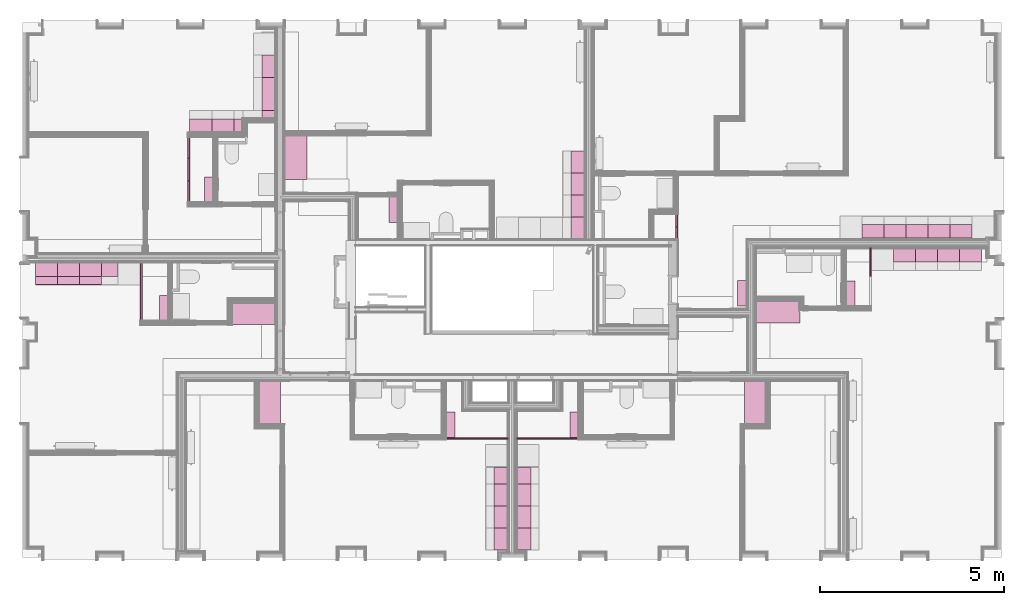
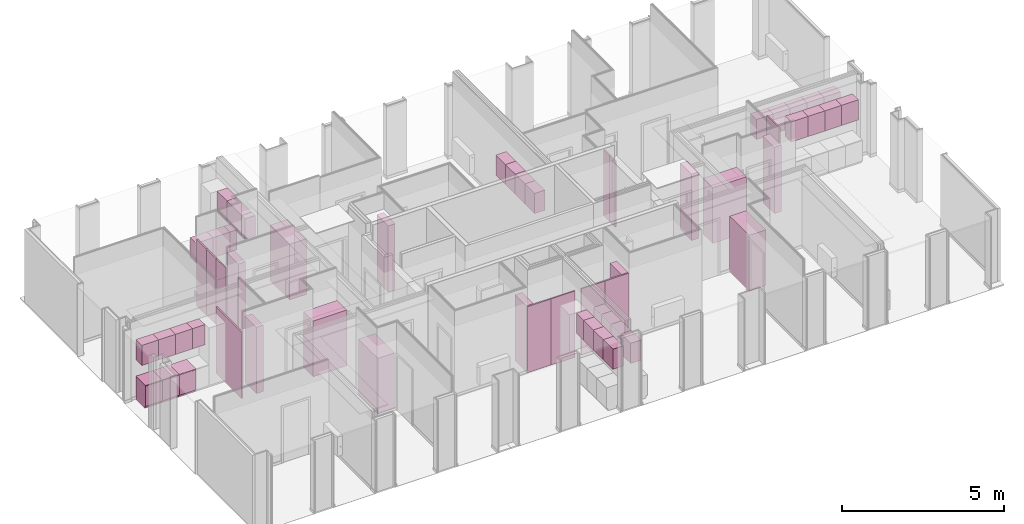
# One storey, part 63 of 65: 57 furnishings.
"""IFC2X3 building model written with IfcOpenShell, lengths in metres."""

from ifc_helpers import new_model, entity, si_unit, converted_unit, derived_unit, money_unit, direction, frame, frame_2d, origin_with_axes, place, context, subcontext, project, spatial, rectangle, extrude, faceted_brep, material, type_object, element, save


model = new_model("IFC2X3")

# Units and contexts
model_context = context("Model", 3, precision=1e-05, world=origin_with_axes(), true_north=direction((0.0, 1.0)))
body_context = subcontext(model_context, "Body", "Model", "MODEL_VIEW", scale=1.0)
ifc_project = project(units=[si_unit("LENGTHUNIT", "METRE"), si_unit("AREAUNIT", "SQUARE_METRE"), si_unit("VOLUMEUNIT", "CUBIC_METRE"), si_unit("ABSORBEDDOSEUNIT", "GRAY"), si_unit("AMOUNTOFSUBSTANCEUNIT", "MOLE"), si_unit("DOSEEQUIVALENTUNIT", "SIEVERT"), si_unit("ELECTRICCAPACITANCEUNIT", "FARAD"), si_unit("ELECTRICCHARGEUNIT", "COULOMB"), si_unit("ELECTRICCONDUCTANCEUNIT", "SIEMENS"), si_unit("ELECTRICCURRENTUNIT", "AMPERE"), si_unit("ELECTRICRESISTANCEUNIT", "OHM"), si_unit("ELECTRICVOLTAGEUNIT", "VOLT"), si_unit("ENERGYUNIT", "JOULE"), si_unit("FORCEUNIT", "NEWTON"), si_unit("FREQUENCYUNIT", "HERTZ"), si_unit("ILLUMINANCEUNIT", "LUX"), si_unit("INDUCTANCEUNIT", "HENRY"), si_unit("LUMINOUSFLUXUNIT", "LUMEN"), si_unit("LUMINOUSINTENSITYUNIT", "CANDELA"), si_unit("MAGNETICFLUXDENSITYUNIT", "TESLA"), si_unit("MAGNETICFLUXUNIT", "WEBER"), si_unit("MASSUNIT", "GRAM"), converted_unit("PLANEANGLEUNIT", "degree", entity("IfcReal", 0.0174532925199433), si_unit("PLANEANGLEUNIT", "RADIAN"), dimensions=[0, 0, 0, 0, 0, 0, 0]), si_unit("POWERUNIT", "WATT"), si_unit("PRESSUREUNIT", "PASCAL"), si_unit("RADIOACTIVITYUNIT", "BECQUEREL"), si_unit("SOLIDANGLEUNIT", "STERADIAN"), si_unit("THERMODYNAMICTEMPERATUREUNIT", "KELVIN"), si_unit("TIMEUNIT", "SECOND"), derived_unit("ACCELERATIONUNIT", [(si_unit("LENGTHUNIT", "METRE"), 1), (si_unit("TIMEUNIT", "SECOND"), -2)]), derived_unit("ANGULARVELOCITYUNIT", [(converted_unit("PLANEANGLEUNIT", "degree", entity("IfcReal", 0.0174532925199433), si_unit("PLANEANGLEUNIT", "RADIAN"), dimensions=[0, 0, 0, 0, 0, 0, 0]), 1), (si_unit("TIMEUNIT", "SECOND"), -1)]), derived_unit("CURVATUREUNIT", [(converted_unit("PLANEANGLEUNIT", "degree", entity("IfcReal", 0.0174532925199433), si_unit("PLANEANGLEUNIT", "RADIAN"), dimensions=[0, 0, 0, 0, 0, 0, 0]), 1), (si_unit("LENGTHUNIT", "METRE"), -1)]), derived_unit("DYNAMICVISCOSITYUNIT", [(si_unit("PRESSUREUNIT", "PASCAL"), 1), (si_unit("TIMEUNIT", "SECOND"), 1)]), derived_unit("HEATFLUXDENSITYUNIT", [(si_unit("POWERUNIT", "WATT"), 1), (si_unit("LENGTHUNIT", "METRE"), -2)]), derived_unit("HEATINGVALUEUNIT", [(si_unit("ENERGYUNIT", "JOULE"), 1), (si_unit("MASSUNIT", "GRAM"), -1)]), derived_unit("INTEGERCOUNTRATEUNIT", [(si_unit("TIMEUNIT", "SECOND"), -1)]), derived_unit("IONCONCENTRATIONUNIT", [(si_unit("MASSUNIT", "GRAM"), 1), (si_unit("VOLUMEUNIT", "CUBIC_METRE"), -1)]), derived_unit("ISOTHERMALMOISTURECAPACITYUNIT", [(si_unit("VOLUMEUNIT", "CUBIC_METRE"), 1), (si_unit("MASSUNIT", "GRAM"), -1)]), derived_unit("KINEMATICVISCOSITYUNIT", [(si_unit("AREAUNIT", "SQUARE_METRE"), 1), (si_unit("TIMEUNIT", "SECOND"), -1)]), derived_unit("LINEARFORCEUNIT", [(si_unit("FORCEUNIT", "NEWTON"), 1), (si_unit("LENGTHUNIT", "METRE"), -1)]), derived_unit("LINEARMOMENTUNIT", [(si_unit("FORCEUNIT", "NEWTON"), 1), (si_unit("LENGTHUNIT", "METRE"), -1)]), derived_unit("LINEARSTIFFNESSUNIT", [(si_unit("FORCEUNIT", "NEWTON"), 1), (si_unit("LENGTHUNIT", "METRE"), -1)]), derived_unit("LINEARVELOCITYUNIT", [(si_unit("LENGTHUNIT", "METRE"), 1), (si_unit("TIMEUNIT", "SECOND"), -1)]), derived_unit("LUMINOUSINTENSITYDISTRIBUTIONUNIT", [(si_unit("LUMINOUSINTENSITYUNIT", "CANDELA"), 1), (si_unit("LUMINOUSFLUXUNIT", "LUMEN"), -1)]), derived_unit("MASSDENSITYUNIT", [(si_unit("MASSUNIT", "GRAM"), 1), (si_unit("VOLUMEUNIT", "CUBIC_METRE"), -1)]), derived_unit("MASSFLOWRATEUNIT", [(si_unit("MASSUNIT", "GRAM"), 1), (si_unit("TIMEUNIT", "SECOND"), -1)]), derived_unit("MASSPERLENGTHUNIT", [(si_unit("MASSUNIT", "GRAM"), 1), (si_unit("LENGTHUNIT", "METRE"), -1)]), derived_unit("MODULUSOFELASTICITYUNIT", [(si_unit("FORCEUNIT", "NEWTON"), 1), (si_unit("AREAUNIT", "SQUARE_METRE"), -1)]), derived_unit("MODULUSOFLINEARSUBGRADEREACTIONUNIT", [(si_unit("FORCEUNIT", "NEWTON"), 1), (si_unit("LENGTHUNIT", "METRE"), -2)]), derived_unit("MODULUSOFROTATIONALSUBGRADEREACTIONUNIT", [(si_unit("FORCEUNIT", "NEWTON"), 1), (si_unit("LENGTHUNIT", "METRE"), 1)]), derived_unit("MODULUSOFSUBGRADEREACTIONUNIT", [(si_unit("FORCEUNIT", "NEWTON"), 1), (si_unit("VOLUMEUNIT", "CUBIC_METRE"), -1)]), derived_unit("MOISTUREDIFFUSIVITYUNIT", [(si_unit("VOLUMEUNIT", "CUBIC_METRE"), 1), (si_unit("TIMEUNIT", "SECOND"), -1)]), derived_unit("MOLECULARWEIGHTUNIT", [(si_unit("MASSUNIT", "GRAM"), 1), (si_unit("AMOUNTOFSUBSTANCEUNIT", "MOLE"), -1)]), derived_unit("PLANARFORCEUNIT", [(si_unit("FORCEUNIT", "NEWTON"), 1), (si_unit("LENGTHUNIT", "METRE"), -2)]), derived_unit("ROTATIONALFREQUENCYUNIT", [(si_unit("TIMEUNIT", "SECOND"), -1)]), derived_unit("ROTATIONALMASSUNIT", [(si_unit("MASSUNIT", "GRAM"), 1), (si_unit("LENGTHUNIT", "METRE"), 2)]), derived_unit("ROTATIONALSTIFFNESSUNIT", [(si_unit("FORCEUNIT", "NEWTON"), 1), (si_unit("LENGTHUNIT", "METRE"), 1), (converted_unit("PLANEANGLEUNIT", "degree", entity("IfcReal", 0.0174532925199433), si_unit("PLANEANGLEUNIT", "RADIAN"), dimensions=[0, 0, 0, 0, 0, 0, 0]), -1)]), derived_unit("SECTIONAREAINTEGRALUNIT", [(si_unit("LENGTHUNIT", "METRE"), 5)]), derived_unit("SECTIONMODULUSUNIT", [(si_unit("LENGTHUNIT", "METRE"), 3)]), derived_unit("SHEARMODULUSUNIT", [(si_unit("FORCEUNIT", "NEWTON"), 1), (si_unit("AREAUNIT", "SQUARE_METRE"), -1)]), derived_unit("SOUNDPOWERUNIT", [(si_unit("ENERGYUNIT", "JOULE"), 1), (si_unit("TIMEUNIT", "SECOND"), -1)]), derived_unit("SPECIFICHEATCAPACITYUNIT", [(si_unit("FORCEUNIT", "NEWTON"), 1), (si_unit("MASSUNIT", "GRAM"), -1), (si_unit("THERMODYNAMICTEMPERATUREUNIT", "KELVIN"), -1)]), derived_unit("TEMPERATUREGRADIENTUNIT", [(si_unit("THERMODYNAMICTEMPERATUREUNIT", "KELVIN"), 1), (si_unit("LENGTHUNIT", "METRE"), -1)]), derived_unit("THERMALADMITTANCEUNIT", [(si_unit("POWERUNIT", "WATT"), 1), (si_unit("AREAUNIT", "SQUARE_METRE"), -1), (si_unit("THERMODYNAMICTEMPERATUREUNIT", "KELVIN"), -1)]), derived_unit("THERMALCONDUCTANCEUNIT", [(si_unit("POWERUNIT", "WATT"), 1), (si_unit("LENGTHUNIT", "METRE"), -1), (si_unit("THERMODYNAMICTEMPERATUREUNIT", "KELVIN"), -1)]), derived_unit("THERMALEXPANSIONCOEFFICIENTUNIT", [(si_unit("THERMODYNAMICTEMPERATUREUNIT", "KELVIN"), -1)]), derived_unit("THERMALRESISTANCEUNIT", [(si_unit("AREAUNIT", "SQUARE_METRE"), 1), (si_unit("POWERUNIT", "WATT"), -1)]), derived_unit("THERMALTRANSMITTANCEUNIT", [(si_unit("POWERUNIT", "WATT"), 1), (si_unit("AREAUNIT", "SQUARE_METRE"), -1), (si_unit("THERMODYNAMICTEMPERATUREUNIT", "KELVIN"), -1)]), derived_unit("TORQUEUNIT", [(si_unit("FORCEUNIT", "NEWTON"), 1), (si_unit("LENGTHUNIT", "METRE"), 1)]), derived_unit("VAPORPERMEABILITYUNIT", [(si_unit("MASSUNIT", "GRAM"), 1), (si_unit("TIMEUNIT", "SECOND"), -1)]), derived_unit("VOLUMETRICFLOWRATEUNIT", [(si_unit("VOLUMEUNIT", "CUBIC_METRE"), 1), (si_unit("TIMEUNIT", "SECOND"), -1)]), derived_unit("WARPINGCONSTANTUNIT", [(si_unit("LENGTHUNIT", "METRE"), 6)]), derived_unit("WARPINGMOMENTUNIT", [(si_unit("FORCEUNIT", "NEWTON"), 1), (si_unit("LENGTHUNIT", "METRE"), 2)]), money_unit("GBP")], contexts=[model_context])

# Site, building, storey, space
site_placement = place(None, origin_with_axes())
site = spatial("IfcSite", under=ifc_project, at=site_placement, Name="Site", CompositionType="ELEMENT")
building_placement = place(site_placement, origin_with_axes())
building = spatial("IfcBuilding", under=site, at=building_placement, Name="Building01", CompositionType="ELEMENT")
storey_placement = place(building_placement, frame((0.0, 0.0, 8.64), z_axis=(0.0, 0.0, 1.0), x_axis=(1.0, 0.0, 0.0)))
storey = spatial("IfcBuildingStorey", under=building, at=storey_placement, Name="2F", CompositionType="ELEMENT", Elevation=8.64)
space_1_placement = place(storey_placement, frame((0.318, 8.21067, 0.017975), z_axis=(0.0, 0.0, 1.0), x_axis=(0.0, -1.0, 0.0)))
space_1 = spatial("IfcSpace", under=storey, at=space_1_placement, Name="13", CompositionType="ELEMENT", InteriorOrExteriorSpace="NOTDEFINED")

# Furnishing
furniture_type_1 = type_object("IfcFurnitureType", Name="SHE_A-Cupboard_Electro")
furnishing_1_placement = place(storey_placement, frame((4.14573, 7.306475, 0.0), z_axis=(0.0, 0.0, 1.0), x_axis=(0.0, -1.0, 0.0)))
element("IfcFurnishingElement", 1, at=furnishing_1_placement, inside=space_1, type_object=furniture_type_1, Name="13", ObjectType="SHE_A-Cupboard_Electro", context=body_context, shape_type="SweptSolid", body=[
    extrude(rectangle(XDim=0.25, YDim=0.7, at=frame_2d((0.35, -0.125), x_axis=(0.0, -1.0))), origin_with_axes(), (0.0, 0.0, 1.0), 2.5),
])

# Space
space_2_placement = place(storey_placement, frame((7.289669, 14.8, 0.017975), z_axis=(0.0, 0.0, 1.0), x_axis=(0.0, -1.0, 0.0)))
space_2 = spatial("IfcSpace", under=storey, at=space_2_placement, Name="15", CompositionType="ELEMENT", InteriorOrExteriorSpace="NOTDEFINED")

# Furnishing
furnishing_2_placement = place(storey_placement, frame((10.143871, 9.292704, 0.0), z_axis=(0.0, 0.0, 1.0), x_axis=(0.0, 1.0, 0.0)))
element("IfcFurnishingElement", 2, at=furnishing_2_placement, inside=space_2, type_object=furniture_type_1, Name="15", ObjectType="SHE_A-Cupboard_Electro", context=body_context, shape_type="SweptSolid", body=[
    extrude(rectangle(XDim=0.25, YDim=0.7, at=frame_2d((0.35, -0.125), x_axis=(0.0, -1.0))), origin_with_axes(), (0.0, 0.0, 1.0), 2.5),
])

# Space
space_3_placement = place(storey_placement, frame((15.83, 8.82, 0.017975), z_axis=(0.0, 0.0, 1.0), x_axis=(0.0, -1.0, 0.0)))
space_3 = spatial("IfcSpace", under=storey, at=space_3_placement, Name="09", CompositionType="ELEMENT", InteriorOrExteriorSpace="NOTDEFINED")

# Furnishing
furnishing_3_placement = place(storey_placement, frame((19.632661, 7.716, 0.0), z_axis=(0.0, 0.0, 1.0), x_axis=(0.0, -1.0, 0.0)))
element("IfcFurnishingElement", 3, at=furnishing_3_placement, inside=space_3, type_object=furniture_type_1, Name="09", ObjectType="SHE_A-Cupboard_Electro", context=body_context, shape_type="SweptSolid", body=[
    extrude(rectangle(XDim=0.25, YDim=0.7, at=frame_2d((0.35, 0.125), x_axis=(0.0, 1.0))), origin_with_axes(), (0.0, 0.0, 1.0), 2.5),
])

# Space
space_4_placement = place(storey_placement, frame((20.122661, 5.205, 0.017975), z_axis=(0.0, 0.0, 1.0), x_axis=(1.0, 0.0, 0.0)))
space_4 = spatial("IfcSpace", under=storey, at=space_4_placement, Name="10", CompositionType="ELEMENT", InteriorOrExteriorSpace="NOTDEFINED")

# Furnishing
furnishing_4_placement = place(storey_placement, frame((22.571661, 7.0, 0.0), z_axis=(0.0, 0.0, 1.0), x_axis=(0.0, 1.0, 0.0)))
element("IfcFurnishingElement", 4, at=furnishing_4_placement, inside=space_4, type_object=furniture_type_1, Name="10", ObjectType="SHE_A-Cupboard_Electro", context=body_context, shape_type="SweptSolid", body=[
    extrude(rectangle(XDim=0.25, YDim=0.7, at=frame_2d((0.35, -0.125), x_axis=(0.0, -1.0))), origin_with_axes(), (0.0, 0.0, 1.0), 2.5),
])

# Space
space_5_placement = place(storey_placement, frame((4.969669, 9.83067, 0.017975), z_axis=(0.0, 0.0, 1.0), x_axis=(1.0, 0.0, 0.0)))
space_5 = spatial("IfcSpace", under=storey, at=space_5_placement, Name="storage", CompositionType="ELEMENT", InteriorOrExteriorSpace="NOTDEFINED")

# Furnishing
furnishing_5_placement = place(storey_placement, frame((5.119669, 9.83067, 0.0), z_axis=(0.0, 0.0, 1.0), x_axis=(0.0, 1.0, 0.0)))
element("IfcFurnishingElement", 5, at=furnishing_5_placement, inside=space_5, type_object=furniture_type_1, Name="14", ObjectType="SHE_A-Cupboard_Electro", context=body_context, shape_type="SweptSolid", body=[
    extrude(rectangle(XDim=0.25, YDim=0.7, at=frame_2d((0.35, -0.125), x_axis=(0.0, -1.0))), origin_with_axes(), (0.0, 0.0, 1.0), 2.5),
])

# Space
space_6_placement = place(storey_placement, frame((13.6125, 3.385, 0.017975), z_axis=(0.0, 0.0, 1.0), x_axis=(1.0, 0.0, 0.0)))
space_6 = spatial("IfcSpace", under=storey, at=space_6_placement, Name="storage", CompositionType="ELEMENT", InteriorOrExteriorSpace="NOTDEFINED")

# Furnishing
furnishing_6_placement = place(storey_placement, frame((15.0625, 3.435, 0.0), z_axis=(0.0, 0.0, 1.0), x_axis=(0.0, 1.0, 0.0)))
element("IfcFurnishingElement", 6, at=furnishing_6_placement, inside=space_6, type_object=furniture_type_1, Name="11", ObjectType="SHE_A-Cupboard_Electro", context=body_context, shape_type="SweptSolid", body=[
    extrude(rectangle(XDim=0.25, YDim=0.7, at=frame_2d((0.35, -0.125), x_axis=(0.0, -1.0))), origin_with_axes(), (0.0, 0.0, 1.0), 2.5),
])

# Space
space_7_placement = place(storey_placement, frame((11.687536, 3.385, 0.017975), z_axis=(0.0, 0.0, 1.0), x_axis=(1.0, 0.0, 0.0)))
space_7 = spatial("IfcSpace", under=storey, at=space_7_placement, Name="storage", CompositionType="ELEMENT", InteriorOrExteriorSpace="NOTDEFINED")

# Furnishings
furnishing_7_placement = place(storey_placement, frame((11.687536, 3.435, 0.0), z_axis=(0.0, 0.0, 1.0), x_axis=(0.0, 1.0, 0.0)))
element("IfcFurnishingElement", 7, at=furnishing_7_placement, inside=space_7, type_object=furniture_type_1, Name="12", ObjectType="SHE_A-Cupboard_Electro", context=body_context, shape_type="SweptSolid", body=[
    extrude(rectangle(XDim=0.25, YDim=0.7, at=frame_2d((0.35, -0.125), x_axis=(0.0, -1.0))), origin_with_axes(), (0.0, 0.0, 1.0), 2.5),
])
ifc_material = material(Name="A_BSUK_StorageScreening_Ffe")
furniture_type_2 = type_object("IfcFurnitureType", Name="SHE_A-Kitchenunit-Base")
placement = place(storey_placement, frame((0.0, 0.0, -8.64), z_axis=(0.0, 0.0, 1.0), x_axis=(1.0, 0.0, 0.0)))
element("IfcFurnishingElement", 8, at=placement, inside=space_1, type_object=furniture_type_2, material=ifc_material, Name="13", ObjectType="SHE_A-Kitchenunit-Base", context=body_context, shape_type="Brep", body=[
    faceted_brep([(1.72073, 8.18817, 9.529), (2.32073, 8.18817, 9.529), (2.32073, 8.18817, 8.644), (1.72073, 8.18817, 8.644), (2.32073, 7.595241, 9.529), (2.32073, 7.58817, 9.521929), (2.32073, 7.58817, 9.511071), (2.32073, 7.595241, 9.504), (2.32073, 7.58817, 9.504), (2.32073, 7.58817, 8.744), (2.32073, 7.63817, 8.744), (2.32073, 7.63817, 8.644), (1.72073, 7.63817, 8.744), (1.72073, 7.63817, 8.644), (1.72073, 7.58817, 8.744), (1.72073, 7.58817, 9.504), (1.72073, 7.595241, 9.504), (1.72073, 7.58817, 9.511071), (1.72073, 7.58817, 9.521929), (1.72073, 7.595241, 9.529)], [[[0, 1, 2, 3]], [[1, 4, 5, 6, 7, 8, 9, 10, 11, 2]], [[12, 13, 11, 10]], [[12, 14, 15, 16, 17, 18, 19, 0, 3, 13]], [[2, 11, 13, 3]], [[7, 16, 15, 8]], [[9, 8, 15, 14]], [[10, 9, 14, 12]], [[5, 18, 17, 6]], [[19, 4, 1, 0]], [[6, 17, 16, 7]], [[4, 19, 18, 5]]]),
])
element("IfcFurnishingElement", 9, at=placement, inside=space_1, type_object=furniture_type_2, material=ifc_material, Name="13", ObjectType="SHE_A-Kitchenunit-Base", context=body_context, shape_type="Brep", body=[
    faceted_brep([(1.12073, 8.18817, 9.529), (1.72073, 8.18817, 9.529), (1.72073, 8.18817, 8.644), (1.12073, 8.18817, 8.644), (1.72073, 7.595241, 9.529), (1.72073, 7.58817, 9.521929), (1.72073, 7.58817, 9.511071), (1.72073, 7.595241, 9.504), (1.72073, 7.58817, 9.504), (1.72073, 7.58817, 8.744), (1.72073, 7.63817, 8.744), (1.72073, 7.63817, 8.644), (1.12073, 7.63817, 8.744), (1.12073, 7.63817, 8.644), (1.12073, 7.58817, 8.744), (1.12073, 7.58817, 9.504), (1.12073, 7.595241, 9.504), (1.12073, 7.58817, 9.511071), (1.12073, 7.58817, 9.521929), (1.12073, 7.595241, 9.529)], [[[0, 1, 2, 3]], [[1, 4, 5, 6, 7, 8, 9, 10, 11, 2]], [[12, 13, 11, 10]], [[12, 14, 15, 16, 17, 18, 19, 0, 3, 13]], [[2, 11, 13, 3]], [[7, 16, 15, 8]], [[9, 8, 15, 14]], [[10, 9, 14, 12]], [[5, 18, 17, 6]], [[19, 4, 1, 0]], [[6, 17, 16, 7]], [[4, 19, 18, 5]]]),
])
element("IfcFurnishingElement", 10, at=placement, inside=space_1, type_object=furniture_type_2, material=ifc_material, Name="13", ObjectType="SHE_A-Kitchenunit-Base", context=body_context, shape_type="Brep", body=[
    faceted_brep([(0.52073, 8.18817, 9.529), (1.12073, 8.18817, 9.529), (1.12073, 8.18817, 8.644), (0.52073, 8.18817, 8.644), (1.12073, 7.595241, 9.529), (1.12073, 7.58817, 9.521929), (1.12073, 7.58817, 9.511071), (1.12073, 7.595241, 9.504), (1.12073, 7.58817, 9.504), (1.12073, 7.58817, 8.744), (1.12073, 7.63817, 8.744), (1.12073, 7.63817, 8.644), (0.52073, 7.63817, 8.744), (0.52073, 7.63817, 8.644), (0.52073, 7.58817, 8.744), (0.52073, 7.58817, 9.504), (0.52073, 7.595241, 9.504), (0.52073, 7.58817, 9.511071), (0.52073, 7.58817, 9.521929), (0.52073, 7.595241, 9.529)], [[[0, 1, 2, 3]], [[1, 4, 5, 6, 7, 8, 9, 10, 11, 2]], [[12, 13, 11, 10]], [[12, 14, 15, 16, 17, 18, 19, 0, 3, 13]], [[2, 11, 13, 3]], [[7, 16, 15, 8]], [[9, 8, 15, 14]], [[10, 9, 14, 12]], [[5, 18, 17, 6]], [[19, 4, 1, 0]], [[6, 17, 16, 7]], [[4, 19, 18, 5]]]),
])
furniture_type_3 = type_object("IfcFurnitureType", Name="SHE_A-Kitchenunit-Wall")
for number, where, z_axis, x_axis, name in (
    (11, (1.72073, 8.18817, 1.504), (0.0, 0.0, 1.0), (1.0, 0.0, 0.0), "13"),
    (12, (1.12073, 8.18817, 1.504), (0.0, 0.0, 1.0), (1.0, 0.0, 0.0), "13"),
    (13, (0.52073, 8.18817, 1.504), (0.0, 0.0, 1.0), (1.0, 0.0, 0.0), "13"),
):
    element("IfcFurnishingElement", number, at=place(storey_placement, frame(where, z_axis=z_axis, x_axis=x_axis)), inside=space_1, type_object=furniture_type_3, Name=name, ObjectType="SHE_A-Kitchenunit-Wall", context=body_context, shape_type="SweptSolid", body=[
        extrude(rectangle(XDim=0.37, YDim=0.6, at=frame_2d((0.3, -0.185), x_axis=(0.0, -1.0))), origin_with_axes(), (0.0, 0.0, 1.0), 0.76),
    ])
for number, where, z_axis, x_axis, name in (
    (14, (15.468132, 9.435, 1.504), (0.0, 0.0, 1.0), (0.0, -1.0, 0.0), "15"),
    (15, (15.468132, 10.035, 1.504), (0.0, 0.0, 1.0), (0.0, -1.0, 0.0), "15"),
    (16, (15.468132, 10.635, 1.504), (0.0, 0.0, 1.0), (0.0, -1.0, 0.0), "15"),
    (17, (15.468132, 11.235, 1.504), (0.0, 0.0, 1.0), (0.0, -1.0, 0.0), "15"),
):
    element("IfcFurnishingElement", number, at=place(storey_placement, frame(where, z_axis=z_axis, x_axis=x_axis)), inside=space_2, type_object=furniture_type_3, Name=name, ObjectType="SHE_A-Kitchenunit-Wall", context=body_context, shape_type="SweptSolid", body=[
        extrude(rectangle(XDim=0.37, YDim=0.6, at=frame_2d((0.3, -0.185), x_axis=(0.0, -1.0))), origin_with_axes(), (0.0, 0.0, 1.0), 0.76),
    ])

# Space
space_8_placement = place(storey_placement, frame((22.624794, 8.82, 0.017975), z_axis=(0.0, 0.0, 1.0), x_axis=(1.0, 0.0, 0.0)))
space_8 = spatial("IfcSpace", under=storey, at=space_8_placement, Name="k/d/l", CompositionType="ELEMENT", InteriorOrExteriorSpace="NOTDEFINED")

# Furnishings
for number, where, z_axis, x_axis, name in (
    (18, (23.609999, 8.863, 1.504), (0.0, 0.0, 1.0), (-1.0, 0.0, 0.0), "09"),
    (19, (24.209999, 8.863, 1.504), (0.0, 0.0, 1.0), (-1.0, 0.0, 0.0), "09"),
    (20, (24.809999, 8.863, 1.504), (0.0, 0.0, 1.0), (-1.0, 0.0, 0.0), "09"),
):
    element("IfcFurnishingElement", number, at=place(storey_placement, frame(where, z_axis=z_axis, x_axis=x_axis)), inside=space_8, type_object=furniture_type_3, Name=name, ObjectType="SHE_A-Kitchenunit-Wall", context=body_context, shape_type="SweptSolid", body=[
        extrude(rectangle(XDim=0.37, YDim=0.6, at=frame_2d((0.3, -0.185), x_axis=(0.0, -1.0))), origin_with_axes(), (0.0, 0.0, 1.0), 0.76),
    ])
for number, where, z_axis, x_axis, name in (
    (21, (25.409999, 8.863, 1.504), (0.0, 0.0, 1.0), (-1.0, 0.0, 0.0), "09"),
    (22, (26.009999, 8.863, 1.504), (0.0, 0.0, 1.0), (-1.0, 0.0, 0.0), "09"),
):
    element("IfcFurnishingElement", number, at=place(storey_placement, frame(where, z_axis=z_axis, x_axis=x_axis)), inside=space_3, type_object=furniture_type_3, Name=name, ObjectType="SHE_A-Kitchenunit-Wall", context=body_context, shape_type="SweptSolid", body=[
        extrude(rectangle(XDim=0.37, YDim=0.6, at=frame_2d((0.3, -0.185), x_axis=(0.0, -1.0))), origin_with_axes(), (0.0, 0.0, 1.0), 0.76),
    ])

# Space
space_9_placement = place(storey_placement, frame((20.122661, 7.155, 0.017975), z_axis=(0.0, 0.0, 1.0), x_axis=(0.0, -1.0, 0.0)))
space_9 = spatial("IfcSpace", under=storey, at=space_9_placement, Name="studio", CompositionType="ELEMENT", InteriorOrExteriorSpace="NOTDEFINED")

# Furnishings
for number, where, z_axis, x_axis, name in (
    (23, (25.671529, 8.58, 1.504), (0.0, 0.0, 1.0), (-1.0, 0.0, 0.0), "10"),
    (24, (25.071529, 8.58, 1.504), (0.0, 0.0, 1.0), (-1.0, 0.0, 0.0), "10"),
    (25, (24.471529, 8.58, 1.504), (0.0, 0.0, 1.0), (-1.0, 0.0, 0.0), "10"),
    (26, (26.271529, 8.58, 1.504), (0.0, 0.0, 1.0), (-1.0, 0.0, 0.0), "10"),
):
    element("IfcFurnishingElement", number, at=place(storey_placement, frame(where, z_axis=z_axis, x_axis=x_axis)), inside=space_9, type_object=furniture_type_3, Name=name, ObjectType="SHE_A-Kitchenunit-Wall", context=body_context, shape_type="SweptSolid", body=[
        extrude(rectangle(XDim=0.37, YDim=0.6, at=frame_2d((0.3, 0.185), x_axis=(0.0, 1.0))), origin_with_axes(), (0.0, 0.0, 1.0), 0.76),
    ])

# Space
space_10_placement = place(storey_placement, frame((14.85, 4.98, 0.017975), z_axis=(0.0, 0.0, 1.0), x_axis=(0.0, -1.0, 0.0)))
space_10 = spatial("IfcSpace", under=storey, at=space_10_placement, Name="11", CompositionType="ELEMENT", InteriorOrExteriorSpace="NOTDEFINED")

# Furnishings
for number, where, z_axis, x_axis, name in (
    (27, (13.631, 2.175001, 1.504), (0.0, 0.0, 1.0), (0.0, -1.0, 0.0), "11"),
    (28, (13.631, 1.575001, 1.504), (0.0, 0.0, 1.0), (0.0, -1.0, 0.0), "11"),
    (29, (13.631, 0.975001, 1.504), (0.0, 0.0, 1.0), (0.0, -1.0, 0.0), "11"),
):
    element("IfcFurnishingElement", number, at=place(storey_placement, frame(where, z_axis=z_axis, x_axis=x_axis)), inside=space_10, type_object=furniture_type_3, Name=name, ObjectType="SHE_A-Kitchenunit-Wall", context=body_context, shape_type="SweptSolid", body=[
        extrude(rectangle(XDim=0.37, YDim=0.6, at=frame_2d((0.3, 0.185), x_axis=(0.0, 1.0))), origin_with_axes(), (0.0, 0.0, 1.0), 0.76),
    ])

# Space
space_11_placement = place(storey_placement, frame((12.15, 4.98, 0.017975), z_axis=(0.0, 0.0, 1.0), x_axis=(-1.0, 0.0, 0.0)))
space_11 = spatial("IfcSpace", under=storey, at=space_11_placement, Name="12", CompositionType="ELEMENT", InteriorOrExteriorSpace="NOTDEFINED")

# Furnishings
for number, where, z_axis, x_axis, name in (
    (30, (13.369, 1.575001, 1.504), (0.0, 0.0, 1.0), (0.0, -1.0, 0.0), "12"),
    (31, (13.369, 0.975001, 1.504), (0.0, 0.0, 1.0), (0.0, -1.0, 0.0), "12"),
    (32, (13.369, 2.175001, 1.504), (0.0, 0.0, 1.0), (0.0, -1.0, 0.0), "12"),
):
    element("IfcFurnishingElement", number, at=place(storey_placement, frame(where, z_axis=z_axis, x_axis=x_axis)), inside=space_11, type_object=furniture_type_3, Name=name, ObjectType="SHE_A-Kitchenunit-Wall", context=body_context, shape_type="SweptSolid", body=[
        extrude(rectangle(XDim=0.37, YDim=0.6, at=frame_2d((0.3, -0.185), x_axis=(0.0, -1.0))), origin_with_axes(), (0.0, 0.0, 1.0), 0.76),
    ])

# Space
space_12_placement = place(storey_placement, frame((0.318, 11.72567, 0.017975), z_axis=(0.0, 0.0, 1.0), x_axis=(1.0, 0.0, 0.0)))
space_12 = spatial("IfcSpace", under=storey, at=space_12_placement, Name="k/d/l", CompositionType="ELEMENT", InteriorOrExteriorSpace="NOTDEFINED")

# Furnishings
for number, where, z_axis, x_axis, name in (
    (33, (4.719669, 11.74067, 1.504), (0.0, 0.0, 1.0), (1.0, 0.0, 0.0), "14"),
    (34, (7.049669, 13.24067, 1.504), (0.0, 0.0, 1.0), (0.0, 1.0, 0.0), "14"),
):
    element("IfcFurnishingElement", number, at=place(storey_placement, frame(where, z_axis=z_axis, x_axis=x_axis)), inside=space_12, type_object=furniture_type_3, Name=name, ObjectType="SHE_A-Kitchenunit-Wall", context=body_context, shape_type="SweptSolid", body=[
        extrude(rectangle(XDim=0.37, YDim=0.6, at=frame_2d((0.3, 0.185), x_axis=(0.0, 1.0))), origin_with_axes(), (0.0, 0.0, 1.0), 0.76),
    ])
furnishing_11_placement = place(storey_placement, frame((7.049669, 12.34067, 1.504), z_axis=(0.0, 0.0, 1.0), x_axis=(0.0, 1.0, 0.0)))
element("IfcFurnishingElement", 35, at=furnishing_11_placement, inside=space_12, type_object=furniture_type_3, Name="14", ObjectType="SHE_A-Kitchenunit-Wall", context=body_context, shape_type="SweptSolid", body=[
    extrude(rectangle(XDim=0.37, YDim=0.9, at=frame_2d((0.45, 0.185), x_axis=(0.0, 1.0))), origin_with_axes(), (0.0, 0.0, 1.0), 0.76),
])
furnishing_12_placement = place(storey_placement, frame((5.319669, 11.74067, 1.504), z_axis=(0.0, 0.0, 1.0), x_axis=(1.0, 0.0, 0.0)))
element("IfcFurnishingElement", 36, at=furnishing_12_placement, inside=space_12, type_object=furniture_type_3, Name="14", ObjectType="SHE_A-Kitchenunit-Wall", context=body_context, shape_type="SweptSolid", body=[
    extrude(rectangle(XDim=0.37, YDim=0.6, at=frame_2d((0.3, 0.185), x_axis=(0.0, 1.0))), origin_with_axes(), (0.0, 0.0, 1.0), 0.76),
])
furnishing_13_placement = place(storey_placement, frame((5.919669, 11.74067, 1.504), z_axis=(0.0, 0.0, 1.0), x_axis=(1.0, 0.0, 0.0)))
element("IfcFurnishingElement", 37, at=furnishing_13_placement, inside=space_12, type_object=furniture_type_3, Name="14", ObjectType="SHE_A-Kitchenunit-Wall", context=body_context, shape_type="SweptSolid", body=[
    extrude(rectangle(XDim=0.37, YDim=0.25, at=frame_2d((0.125, 0.185), x_axis=(0.0, 1.0))), origin_with_axes(), (0.0, 0.0, 1.0), 0.76),
])
furnishing_14_placement = place(storey_placement, frame((7.049669, 12.12567, 1.504), z_axis=(0.0, 0.0, 1.0), x_axis=(0.0, 1.0, 0.0)))
element("IfcFurnishingElement", 38, at=furnishing_14_placement, inside=space_12, type_object=furniture_type_3, Name="14", ObjectType="SHE_A-Kitchenunit-Wall", context=body_context, shape_type="SweptSolid", body=[
    extrude(rectangle(XDim=0.37, YDim=0.215, at=frame_2d((0.1075, 0.185), x_axis=(0.0, 1.0))), origin_with_axes(), (0.0, 0.0, 1.0), 0.76),
])
furniture_type_4 = type_object("IfcFurnitureType", Name="SHE_A-Wardrobe_hall 40x90")
furnishing_15_placement = place(storey_placement, frame((5.864669, 7.111475, 0.0), z_axis=(0.0, 0.0, 1.0), x_axis=(1.0, 0.0, 0.0)))
element("IfcFurnishingElement", 39, at=furnishing_15_placement, inside=space_1, type_object=furniture_type_4, Name="13", ObjectType="SHE_A-Wardrobe_hall 40x90", context=body_context, shape_type="SweptSolid", body=[
    extrude(rectangle(XDim=0.6, YDim=1.2, at=frame_2d((0.6, -0.3), x_axis=(0.0, -1.0))), origin_with_axes(), (0.0, 0.0, 1.0), 2.1),
])
furnishing_16_placement = place(storey_placement, frame((20.122661, 7.155, 0.0), z_axis=(0.0, 0.0, 1.0), x_axis=(1.0, 0.0, 0.0)))
element("IfcFurnishingElement", 40, at=furnishing_16_placement, inside=space_4, type_object=furniture_type_4, Name="10", ObjectType="SHE_A-Wardrobe_hall 40x90", context=body_context, shape_type="SweptSolid", body=[
    extrude(rectangle(XDim=0.6, YDim=1.2, at=frame_2d((0.6, -0.3), x_axis=(0.0, -1.0))), origin_with_axes(), (0.0, 0.0, 1.0), 2.1),
])
furnishing_17_placement = place(storey_placement, frame((7.904669, 11.653124, 0.0), z_axis=(0.0, 0.0, 1.0), x_axis=(0.0, -1.0, 0.0)))
element("IfcFurnishingElement", 41, at=furnishing_17_placement, inside=space_2, type_object=furniture_type_4, Name="15", ObjectType="SHE_A-Wardrobe_hall 40x90", context=body_context, shape_type="SweptSolid", body=[
    extrude(rectangle(XDim=0.6, YDim=1.2, at=frame_2d((0.6, -0.3), x_axis=(0.0, -1.0))), origin_with_axes(), (0.0, 0.0, 1.0), 2.1),
])

# Space
space_13_placement = place(storey_placement, frame((6.595, 4.98, 0.017975), z_axis=(0.0, 0.0, 1.0), x_axis=(0.0, -1.0, 0.0)))
space_13 = spatial("IfcSpace", under=storey, at=space_13_placement, Name="k/d/l", CompositionType="ELEMENT", InteriorOrExteriorSpace="NOTDEFINED")

# Furnishing
furnishing_18_placement = place(storey_placement, frame((7.195, 4.98, 0.0), z_axis=(0.0, 0.0, 1.0), x_axis=(0.0, -1.0, 0.0)))
element("IfcFurnishingElement", 42, at=furnishing_18_placement, inside=space_13, type_object=furniture_type_4, Name="12", ObjectType="SHE_A-Wardrobe_hall 40x90", context=body_context, shape_type="SweptSolid", body=[
    extrude(rectangle(XDim=0.6, YDim=1.2, at=frame_2d((0.6, -0.3), x_axis=(0.0, -1.0))), origin_with_axes(), (0.0, 0.0, 1.0), 2.1),
])

# Space
space_14_placement = place(storey_placement, frame((17.9025, 3.385, 0.017975), z_axis=(0.0, 0.0, 1.0), x_axis=(-1.0, 0.0, 0.0)))
space_14 = spatial("IfcSpace", under=storey, at=space_14_placement, Name="k/d/l", CompositionType="ELEMENT", InteriorOrExteriorSpace="NOTDEFINED")

# Furnishings
furnishing_19_placement = place(storey_placement, frame((20.415, 4.98, 0.0), z_axis=(0.0, 0.0, 1.0), x_axis=(0.0, -1.0, 0.0)))
element("IfcFurnishingElement", 43, at=furnishing_19_placement, inside=space_14, type_object=furniture_type_4, Name="11", ObjectType="SHE_A-Wardrobe_hall 40x90", context=body_context, shape_type="SweptSolid", body=[
    extrude(rectangle(XDim=0.6, YDim=1.2, at=frame_2d((0.6, -0.3), x_axis=(0.0, -1.0))), origin_with_axes(), (0.0, 0.0, 1.0), 2.1),
])
furniture_type_5 = type_object("IfcFurnitureType", Name="SHE_A-Kitchenunit-Wall37x45")
furnishing_20_placement = place(storey_placement, frame((13.631, 2.175001, 1.504), z_axis=(0.0, 0.0, 1.0), x_axis=(0.0, 1.0, 0.0)))
element("IfcFurnishingElement", 44, at=furnishing_20_placement, inside=space_14, type_object=furniture_type_5, Name="11", ObjectType="SHE_A-Kitchenunit-Wall37x45", context=body_context, shape_type="SweptSolid", body=[
    extrude(rectangle(XDim=0.37, YDim=0.45, at=frame_2d((0.225, -0.185), x_axis=(0.0, -1.0))), origin_with_axes(), (0.0, 0.0, 1.0), 0.76),
])
furnishing_21_placement = place(storey_placement, frame((13.369, 2.175001, 1.504), z_axis=(0.0, 0.0, 1.0), x_axis=(0.0, 1.0, 0.0)))
element("IfcFurnishingElement", 45, at=furnishing_21_placement, inside=space_11, type_object=furniture_type_5, Name="12", ObjectType="SHE_A-Kitchenunit-Wall37x45", context=body_context, shape_type="SweptSolid", body=[
    extrude(rectangle(XDim=0.37, YDim=0.45, at=frame_2d((0.225, 0.185), x_axis=(0.0, 1.0))), origin_with_axes(), (0.0, 0.0, 1.0), 0.76),
])
furnishing_22_placement = place(storey_placement, frame((2.32073, 8.18817, 1.504), z_axis=(0.0, 0.0, 1.0), x_axis=(1.0, 0.0, 0.0)))
element("IfcFurnishingElement", 46, at=furnishing_22_placement, inside=space_1, type_object=furniture_type_5, Name="13", ObjectType="SHE_A-Kitchenunit-Wall37x45", context=body_context, shape_type="SweptSolid", body=[
    extrude(rectangle(XDim=0.37, YDim=0.45, at=frame_2d((0.225, -0.185), x_axis=(0.0, -1.0))), origin_with_axes(), (0.0, 0.0, 1.0), 0.76),
])

# Space
space_15_placement = place(storey_placement, frame((7.064669, 7.111475, 0.017975), z_axis=(0.0, 0.0, 1.0), x_axis=(-1.0, 0.0, 0.0)))
space_15 = spatial("IfcSpace", under=storey, at=space_15_placement, Name="k/d/l", CompositionType="ELEMENT", InteriorOrExteriorSpace="NOTDEFINED")

# Furnishings
furniture_type_6 = type_object("IfcFurnitureType", Name="SHE_A-UtilityCupbord")
furnishing_23_placement = place(storey_placement, frame((3.37073, 8.18817, 0.0), z_axis=(0.0, 0.0, 1.0), x_axis=(1.0, 0.0, 0.0)))
element("IfcFurnishingElement", 47, at=furnishing_23_placement, inside=space_15, type_object=furniture_type_6, Name="13", ObjectType="SHE_A-UtilityCupbord", context=body_context, shape_type="SweptSolid", body=[
    extrude(rectangle(XDim=1.581695, YDim=0.05, at=frame_2d((0.025, -0.790847), x_axis=(0.0, -1.0))), origin_with_axes(), (0.0, 0.0, 1.0), 2.5),
])
furnishing_24_placement = place(storey_placement, frame((23.221529, 8.595, 0.0), z_axis=(0.0, 0.0, 1.0), x_axis=(1.0, 0.0, 0.0)))
element("IfcFurnishingElement", 48, at=furnishing_24_placement, inside=space_9, type_object=furniture_type_6, Name="10", ObjectType="SHE_A-UtilityCupbord", context=body_context, shape_type="SweptSolid", body=[
    extrude(rectangle(XDim=0.7725, YDim=0.05, at=frame_2d((0.025, -0.38625), x_axis=(0.0, -1.0))), origin_with_axes(), (0.0, 0.0, 1.0), 2.5),
])
for number, where, z_axis, x_axis, name in (
    (49, (13.6125, 3.385, 0.0), (0.0, 0.0, 1.0), (0.0, 1.0, 0.0), "11"),
    (50, (14.4625, 3.385, 0.0), (0.0, 0.0, 1.0), (0.0, 1.0, 0.0), "11"),
):
    element("IfcFurnishingElement", number, at=place(storey_placement, frame(where, z_axis=z_axis, x_axis=x_axis)), inside=space_14, type_object=furniture_type_6, Name=name, ObjectType="SHE_A-UtilityCupbord", context=body_context, shape_type="SweptSolid", body=[
        extrude(rectangle(XDim=0.85, YDim=0.05, at=frame_2d((0.025, -0.425), x_axis=(0.0, -1.0))), origin_with_axes(), (0.0, 0.0, 1.0), 2.5),
    ])

# Space
space_16_placement = place(storey_placement, frame((3.569669, 8.43567, 0.017975), z_axis=(0.0, 0.0, 1.0), x_axis=(1.0, 0.0, 0.0)))
space_16 = spatial("IfcSpace", under=storey, at=space_16_placement, Name="corridor", CompositionType="ELEMENT", InteriorOrExteriorSpace="NOTDEFINED")

# Furnishing
furnishing_25_placement = place(storey_placement, frame((4.669669, 11.63067, 0.0), z_axis=(0.0, 0.0, 1.0), x_axis=(1.0, 0.0, 0.0)))
element("IfcFurnishingElement", 51, at=furnishing_25_placement, inside=space_16, type_object=furniture_type_6, Name="14", ObjectType="SHE_A-UtilityCupbord", context=body_context, shape_type="SweptSolid", body=[
    extrude(rectangle(XDim=0.6, YDim=0.05, at=frame_2d((0.025, -0.3), x_axis=(0.0, -1.0))), origin_with_axes(), (0.0, 0.0, 1.0), 2.5),
])

# Space
space_17_placement = place(storey_placement, frame((22.624794, 10.57, 0.017975), z_axis=(0.0, 0.0, 1.0), x_axis=(-1.0, 0.0, 0.0)))
space_17 = spatial("IfcSpace", under=storey, at=space_17_placement, Name="corridor", CompositionType="ELEMENT", InteriorOrExteriorSpace="NOTDEFINED")

# Furnishings
for number, where, z_axis, x_axis, name in (
    (52, (17.95, 9.525, 0.0), (0.0, 0.0, 1.0), (1.0, 0.0, 0.0), "09"),
    (53, (17.95, 9.1725, 0.0), (0.0, 0.0, 1.0), (1.0, 0.0, 0.0), "09"),
):
    element("IfcFurnishingElement", number, at=place(storey_placement, frame(where, z_axis=z_axis, x_axis=x_axis)), inside=space_17, type_object=furniture_type_6, Name=name, ObjectType="SHE_A-UtilityCupbord", context=body_context, shape_type="SweptSolid", body=[
        extrude(rectangle(XDim=0.3525, YDim=0.05, at=frame_2d((0.025, -0.17625), x_axis=(0.0, -1.0))), origin_with_axes(), (0.0, 0.0, 1.0), 2.5),
    ])
for number, where, z_axis, x_axis, name in (
    (54, (4.669669, 11.03067, 0.0), (0.0, 0.0, 1.0), (1.0, 0.0, 0.0), "14"),
    (55, (4.669669, 10.43067, 0.0), (0.0, 0.0, 1.0), (1.0, 0.0, 0.0), "14"),
):
    element("IfcFurnishingElement", number, at=place(storey_placement, frame(where, z_axis=z_axis, x_axis=x_axis)), inside=space_16, type_object=furniture_type_6, Name=name, ObjectType="SHE_A-UtilityCupbord", context=body_context, shape_type="SweptSolid", body=[
        extrude(rectangle(XDim=0.6, YDim=0.05, at=frame_2d((0.025, -0.3), x_axis=(0.0, -1.0))), origin_with_axes(), (0.0, 0.0, 1.0), 2.5),
    ])
for number, where, z_axis, x_axis, name in (
    (56, (11.687536, 3.385, 0.0), (0.0, 0.0, 1.0), (0.0, 1.0, 0.0), "12"),
    (57, (12.537536, 3.385, 0.0), (0.0, 0.0, 1.0), (0.0, 1.0, 0.0), "12"),
):
    element("IfcFurnishingElement", number, at=place(storey_placement, frame(where, z_axis=z_axis, x_axis=x_axis)), inside=space_13, type_object=furniture_type_6, Name=name, ObjectType="SHE_A-UtilityCupbord", context=body_context, shape_type="SweptSolid", body=[
        extrude(rectangle(XDim=0.85, YDim=0.05, at=frame_2d((0.025, -0.425), x_axis=(0.0, -1.0))), origin_with_axes(), (0.0, 0.0, 1.0), 2.5),
    ])

save(model, "model.ifc")
